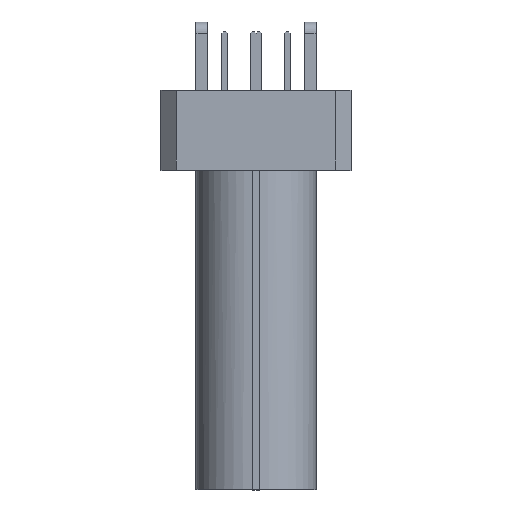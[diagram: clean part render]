
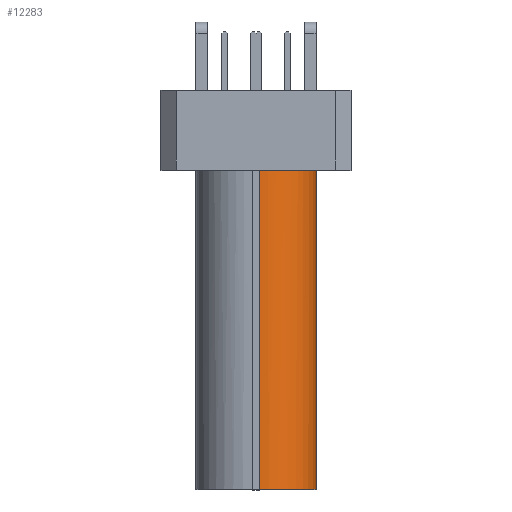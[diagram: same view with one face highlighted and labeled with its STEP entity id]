
A CAD part, top view. The second image highlights one B-rep face of the part: STEP entity #12283.
In plain terms, the highlighted cylindrical face has radius 1.5 mm (diameter 3 mm), a partial arc.
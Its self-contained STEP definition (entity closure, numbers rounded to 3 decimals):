
#154 = CARTESIAN_POINT ( 'NONE',  ( 0.08, 2.3, 4.47 ) ) ;
#333 = CIRCLE ( 'NONE', #8139, 1.5 ) ;
#468 = CARTESIAN_POINT ( 'NONE',  ( 1.58, 2.3, 2.97 ) ) ;
#834 = CARTESIAN_POINT ( 'NONE',  ( 0.08, 2.3, 2.97 ) ) ;
#1126 = EDGE_CURVE ( 'NONE', #12376, #12538, #333, .T. ) ;
#1592 = DIRECTION ( 'NONE',  ( 0., -1., 0. ) ) ;
#2000 = CARTESIAN_POINT ( 'NONE',  ( 0.08, 2.3, 4.47 ) ) ;
#2206 = CARTESIAN_POINT ( 'NONE',  ( 0.08, -6.1, 2.97 ) ) ;
#2273 = DIRECTION ( 'NONE',  ( 0., 1., 0. ) ) ;
#2508 = CARTESIAN_POINT ( 'NONE',  ( 1.25, 2.3, 3.909 ) ) ;
#2873 = EDGE_CURVE ( 'NONE', #13633, #11932, #13248, .T. ) ;
#2961 = ORIENTED_EDGE ( 'NONE', *, *, #3325, .F. ) ;
#3271 = CARTESIAN_POINT ( 'NONE',  ( 0.08, 2.458, 2.97 ) ) ;
#3325 = EDGE_CURVE ( 'NONE', #13633, #12538, #10033, .T. ) ;
#3380 = DIRECTION ( 'NONE',  ( 0., -1., 0. ) ) ;
#4097 = CIRCLE ( 'NONE', #5879, 1.5 ) ;
#4401 = EDGE_LOOP ( 'NONE', ( #6374, #7994, #2961, #12865, #5394 ) ) ;
#4776 = AXIS2_PLACEMENT_3D ( 'NONE', #13411, #8866, #5724 ) ;
#4929 = CARTESIAN_POINT ( 'NONE',  ( 0.08, -6.1, 4.47 ) ) ;
#5129 = CARTESIAN_POINT ( 'NONE',  ( 1.58, -6.1, 2.97 ) ) ;
#5369 = DIRECTION ( 'NONE',  ( 0.78, 0., 0.626 ) ) ;
#5394 = ORIENTED_EDGE ( 'NONE', *, *, #10492, .T. ) ;
#5521 = EDGE_CURVE ( 'NONE', #12496, #12376, #8872, .T. ) ;
#5724 = DIRECTION ( 'NONE',  ( 1., 0., 0. ) ) ;
#5879 = AXIS2_PLACEMENT_3D ( 'NONE', #834, #10678, #5369 ) ;
#6374 = ORIENTED_EDGE ( 'NONE', *, *, #5521, .T. ) ;
#6378 = AXIS2_PLACEMENT_3D ( 'NONE', #3271, #10996, #7588 ) ;
#7283 = VECTOR ( 'NONE', #3380, 1000. ) ;
#7588 = DIRECTION ( 'NONE',  ( 0., 0., 1. ) ) ;
#7896 = VECTOR ( 'NONE', #1592, 1000. ) ;
#7994 = ORIENTED_EDGE ( 'NONE', *, *, #1126, .T. ) ;
#8139 = AXIS2_PLACEMENT_3D ( 'NONE', #2206, #2273, #8809 ) ;
#8627 = CYLINDRICAL_SURFACE ( 'NONE', #6378, 1.5 ) ;
#8755 = FACE_OUTER_BOUND ( 'NONE', #4401, .T. ) ;
#8809 = DIRECTION ( 'NONE',  ( 0., 0., 1. ) ) ;
#8866 = DIRECTION ( 'NONE',  ( 0., -1., 0. ) ) ;
#8872 = LINE ( 'NONE', #154, #7283 ) ;
#10033 = LINE ( 'NONE', #468, #7896 ) ;
#10162 = CARTESIAN_POINT ( 'NONE',  ( 1.58, 2.3, 2.97 ) ) ;
#10492 = EDGE_CURVE ( 'NONE', #11932, #12496, #4097, .T. ) ;
#10678 = DIRECTION ( 'NONE',  ( 0., -1., 0. ) ) ;
#10996 = DIRECTION ( 'NONE',  ( 0., -1., 0. ) ) ;
#11932 = VERTEX_POINT ( 'NONE', #2508 ) ;
#12283 = ADVANCED_FACE ( 'NONE', ( #8755 ), #8627, .T. ) ;
#12376 = VERTEX_POINT ( 'NONE', #4929 ) ;
#12496 = VERTEX_POINT ( 'NONE', #2000 ) ;
#12538 = VERTEX_POINT ( 'NONE', #5129 ) ;
#12865 = ORIENTED_EDGE ( 'NONE', *, *, #2873, .T. ) ;
#13248 = CIRCLE ( 'NONE', #4776, 1.5 ) ;
#13411 = CARTESIAN_POINT ( 'NONE',  ( 0.08, 2.3, 2.97 ) ) ;
#13633 = VERTEX_POINT ( 'NONE', #10162 ) ;
